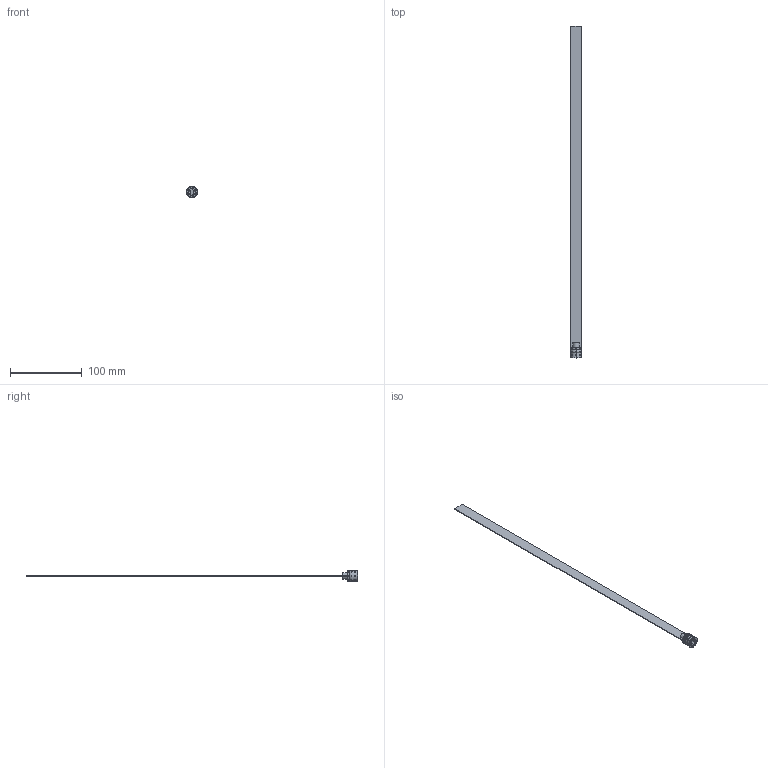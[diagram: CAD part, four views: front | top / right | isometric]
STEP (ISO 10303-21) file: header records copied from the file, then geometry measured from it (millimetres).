
FILE_DESCRIPTION (( 'STEP AP203' ), '1' );
FILE_NAME ('RL15Fx450.STEP', '2015-12-02T15:01:46', ( 'Balzi' ), ( '' ), 'SwSTEP 2.0', 'SolidWorks 2015', '' );
FILE_SCHEMA (( 'CONFIG_CONTROL_DESIGN' ));
Length unit declared in the file: millimetre
Products named in the file (1): RL15Fx450
Bounding box: 16.25 x 464 x 16.25 mm (x, y, z)
Volume: 9265.2 mm3; surface area: 15829.6 mm2
Topology: 1 solids, 1 shells, 72 faces, 171 edges, 105 vertices
Faces by surface type: plane 30, cylinder 17, cone 17, torus 8
Entity records: 2165 total; most frequent: CARTESIAN_POINT 399, DIRECTION 370, ORIENTED_EDGE 342, EDGE_CURVE 171, AXIS2_PLACEMENT_3D 140, VERTEX_POINT 105, LINE 90, VECTOR 90
